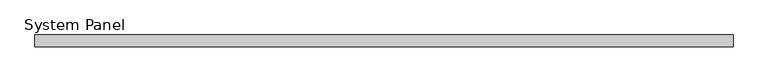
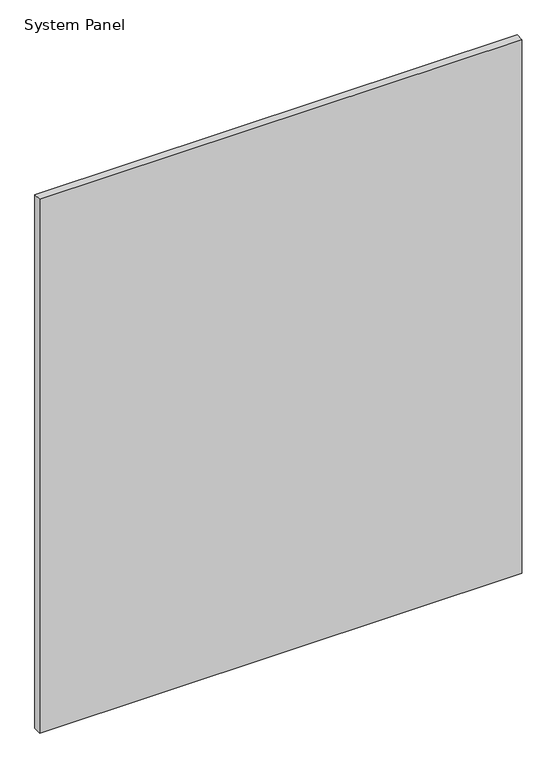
"""IFC4 building model written with IfcOpenShell, lengths in millimetres: plate geometry, System Panel : Panel_Glazed_Generic Showcase_30mm."""

import ifcopenshell
import ifcopenshell.guid

model = None  # the IFC model being written
_history = None  # IfcOwnerHistory: only IFC2X3 demands one
_inside = {}  # id of a spatial element -> (the spatial element, [elements in it])
_under = {}  # id of a project, library or spatial element -> (it, [spatial elements below it])
_declared = {}  # id of a project -> (the project, [libraries it declares])
_typed = {}  # id of a type object -> (the type object, [elements of that type])
_made_of = {}  # id of a material, layer set ... -> (it, [elements and type objects made of it])


def new_model(schema):
    """Start an empty IFC model of exactly this schema.

    Asked for "IFC4X3", IfcOpenShell would pick the latest addendum, in which some entities
    have other attributes; the version numbers below select the first issue.
    IFC2X3 requires an IfcOwnerHistory on every rooted entity: one is made here for all.
    """
    global model, _history
    if schema == "IFC4X3":
        model = ifcopenshell.file(schema_version=(4, 3, 0, 0))
    else:
        model = ifcopenshell.file(schema=schema)
    _inside.clear()
    _under.clear()
    _declared.clear()
    _typed.clear()
    _made_of.clear()
    _history = None
    if model.schema == "IFC2X3":
        org = make("IfcOrganization", Name="unknown")
        user = make(
            "IfcPersonAndOrganization",
            ThePerson=make("IfcPerson", FamilyName="unknown"),
            TheOrganization=org,
        )
        app = make(
            "IfcApplication",
            ApplicationDeveloper=org,
            Version="unknown",
            ApplicationFullName="unknown",
            ApplicationIdentifier="unknown",
        )
        _history = make(
            "IfcOwnerHistory",
            OwningUser=user,
            OwningApplication=app,
            ChangeAction="ADDED",
            CreationDate=0,
        )
    return model


def make(cls, **values):
    """One entity of the class cls with the attributes given. An attribute that is None is left unset."""
    return model.create_entity(
        cls, **{name: value for name, value in values.items() if value is not None}
    )


def rooted(cls, **values):
    """An entity with a GlobalId (a new one), such as an element, a storey or a relation."""
    return make(cls, GlobalId=ifcopenshell.guid.new(), OwnerHistory=_history, **values)


def si_unit(unit_type, name, prefix=None):
    """IfcSIUnit, for example si_unit("LENGTHUNIT", "METRE", prefix="MILLI")."""
    return make("IfcSIUnit", UnitType=unit_type, Prefix=prefix, Name=name)


def assignment(units):
    """IfcUnitAssignment: the units of a project."""
    return None if units is None else make("IfcUnitAssignment", Units=units)


def point(xyz):
    """IfcCartesianPoint."""
    return None if xyz is None else make("IfcCartesianPoint", Coordinates=xyz)


def direction(xyz):
    """IfcDirection."""
    return None if xyz is None else make("IfcDirection", DirectionRatios=xyz)


def frame(location, z_axis=None, x_axis=None):
    """IfcAxis2Placement3D, a coordinate frame: its origin and axes. An axis left out is left unset."""
    return make(
        "IfcAxis2Placement3D",
        Location=point(location),
        Axis=direction(z_axis),
        RefDirection=direction(x_axis),
    )


def origin():
    """The frame at (0, 0, 0) with its axes left unset."""
    return frame((0.0, 0.0, 0.0))


def origin_with_axes():
    """The frame at (0, 0, 0) with the z axis (0, 0, 1) and the x axis (1, 0, 0) written out."""
    return frame((0.0, 0.0, 0.0), z_axis=(0.0, 0.0, 1.0), x_axis=(1.0, 0.0, 0.0))


def place(relative_to, where):
    """IfcLocalPlacement: puts the frame where relative to a parent placement (None: the world)."""
    return make(
        "IfcLocalPlacement", PlacementRelTo=relative_to, RelativePlacement=where
    )


def context(
    kind, dimensions, precision=None, world=None, true_north=None, identifier=None
):
    """IfcGeometricRepresentationContext, for example the 3D "Model" context."""
    return make(
        "IfcGeometricRepresentationContext",
        ContextIdentifier=identifier,
        ContextType=kind,
        CoordinateSpaceDimension=dimensions,
        Precision=precision,
        WorldCoordinateSystem=world,
        TrueNorth=true_north,
    )


def project(units=None, contexts=None):
    """IfcProject with its units and contexts."""
    return rooted(
        "IfcProject",
        Name="project",
        RepresentationContexts=contexts,
        UnitsInContext=assignment(units),
    )


def spatial(cls, under=None, at=None, **own):
    """A site, building, storey or space (cls), placed at a placement, below another one or the project."""
    s = rooted(cls, ObjectPlacement=at, **own)
    if under is not None:
        _under.setdefault(under.id(), (under, []))[1].append(s)
    return s


def polyline(points):
    """IfcPolyline through the points."""
    return make("IfcPolyline", Points=[point(p) for p in points])


def outline(outer, holes=None, kind="AREA"):
    """IfcArbitraryClosedProfileDef: a profile drawn as a closed curve; with holes, ...WithVoids."""
    if holes is None:
        return make("IfcArbitraryClosedProfileDef", ProfileType=kind, OuterCurve=outer)
    return make(
        "IfcArbitraryProfileDefWithVoids",
        ProfileType=kind,
        OuterCurve=outer,
        InnerCurves=holes,
    )


def extrude(swept, where, along, depth):
    """IfcExtrudedAreaSolid: the profile swept, set in the frame where, extruded along a direction by depth."""
    return make(
        "IfcExtrudedAreaSolid",
        SweptArea=swept,
        Position=where,
        ExtrudedDirection=direction(along),
        Depth=depth,
    )


def shape(context_of_items, identifier, shape_type, items):
    """IfcShapeRepresentation: the items that make up one representation, for example the "Body"."""
    return make(
        "IfcShapeRepresentation",
        ContextOfItems=context_of_items,
        RepresentationIdentifier=identifier,
        RepresentationType=shape_type,
        Items=items,
    )


def source(mapping_origin, context_of_items, identifier, shape_type, items):
    """IfcRepresentationMap: a shape defined once, which mapped items show again and again."""
    return make(
        "IfcRepresentationMap",
        MappingOrigin=mapping_origin,
        MappedRepresentation=shape(context_of_items, identifier, shape_type, items),
    )


def transform(
    local_origin,
    x_axis=None,
    y_axis=None,
    z_axis=None,
    scale=None,
    scale2=None,
    scale3=None,
    uniform=True,
):
    """IfcCartesianTransformationOperator3D, or its non-uniform kind. x_axis, y_axis, z_axis: its Axis1, 2, 3."""
    if uniform:
        return make(
            "IfcCartesianTransformationOperator3D",
            Axis1=direction(x_axis),
            Axis2=direction(y_axis),
            LocalOrigin=point(local_origin),
            Scale=scale,
            Axis3=direction(z_axis),
        )
    return make(
        "IfcCartesianTransformationOperator3DnonUniform",
        Axis1=direction(x_axis),
        Axis2=direction(y_axis),
        LocalOrigin=point(local_origin),
        Scale=scale,
        Axis3=direction(z_axis),
        Scale2=scale2,
        Scale3=scale3,
    )


def mapped(mapping_source, mapping_target):
    """IfcMappedItem: shows the shape of a source again, moved by a transform."""
    return make(
        "IfcMappedItem", MappingSource=mapping_source, MappingTarget=mapping_target
    )


def made_of(thing, what):
    """Note that an element or type object is made of a material, layer set ...; save() writes the relation."""
    if what is not None:
        _made_of.setdefault(what.id(), (what, []))[1].append(thing)
    return thing


def element(
    cls,
    number,
    at=None,
    inside=None,
    cuts=None,
    type_object=None,
    material=None,
    context=None,
    identifier="Body",
    shape_type=None,
    held_by="IfcProductDefinitionShape",
    body=None,
    shapes=None,
    **own,
):
    """One element of the class cls, such as IfcWall. Its Tag is "e" and its number.

    at: its placement. inside: the storey or other place that contains it. cuts: it is an
    opening in that element (IfcRelVoidsElement). A single representation is given by context,
    identifier, shape_type and body (its items); several are given by shapes. held_by: the class
    of the entity that holds the representations. save() writes the other relations.
    """
    e = rooted(cls, Tag="e%d" % number, ObjectPlacement=at, **own)
    if body is not None:
        shapes = [shape(context, identifier, shape_type, body)]
    if shapes is not None:
        e.Representation = make(held_by, Representations=shapes)
    if inside is not None:
        _inside.setdefault(inside.id(), (inside, []))[1].append(e)
    if cuts is not None:
        rooted(
            "IfcRelVoidsElement", RelatingBuildingElement=cuts, RelatedOpeningElement=e
        )
    if type_object is not None:
        _typed.setdefault(type_object.id(), (type_object, []))[1].append(e)
    return made_of(e, material)


def aggregate(whole, parts):
    """IfcRelAggregates: a whole, such as a stair, and the parts it consists of."""
    return rooted("IfcRelAggregates", RelatingObject=whole, RelatedObjects=parts)


def save(model, path):
    """Write the relations noted so far, then the file.

    IfcRelAggregates (storeys below a building ...), IfcRelContainedInSpatialStructure (elements
    in a storey), IfcRelDefinesByType, IfcRelAssociatesMaterial and IfcRelDeclares: one each for
    every whole, place, type object, material and project.
    """
    for whole, parts in _under.values():
        aggregate(whole, parts)
    for where, things in _inside.values():
        rooted(
            "IfcRelContainedInSpatialStructure",
            RelatedElements=things,
            RelatingStructure=where,
        )
    for kind, things in _typed.values():
        rooted("IfcRelDefinesByType", RelatedObjects=things, RelatingType=kind)
    for what, things in _made_of.values():
        rooted("IfcRelAssociatesMaterial", RelatedObjects=things, RelatingMaterial=what)
    for by, libraries in _declared.values():
        rooted("IfcRelDeclares", RelatingContext=by, RelatedDefinitions=libraries)
    model.write(path)


def system_panel_b88e8618(model_context):
    return source(origin(), model_context, "Body", "SweptSolid", [
        extrude(outline(polyline([(875.9897739, 0.0), (-875.9897739, 0.0), (-875.9897739, 30.0), (875.9897739, 30.0), (875.9897739, 0.0)])), origin_with_axes(), (0.0, 0.0, 1.0), 2050.0),
    ])


if __name__ == "__main__":
    model = new_model("IFC4")
    model_context = context("Model", 3, world=origin())
    ifc_project = project(units=[si_unit("LENGTHUNIT", "METRE", prefix="MILLI")], contexts=[model_context])
    site = spatial("IfcSite", under=ifc_project)
    building = spatial("IfcBuilding", under=site)
    placement = place(None, origin())
    system_panel_shape = system_panel_b88e8618(model_context)
    element("IfcPlate", 1, ObjectType="System Panel : Panel_Glazed_Generic Showcase_30mm", at=placement, inside=building, context=model_context, shape_type="MappedRepresentation", body=[
        mapped(system_panel_shape, transform((0.0, 0.0, 0.0), x_axis=(1.0, 0.0, 0.0), y_axis=(0.0, 1.0, 0.0), z_axis=(0.0, 0.0, 1.0))),
    ])
    save(model, "model.ifc")
